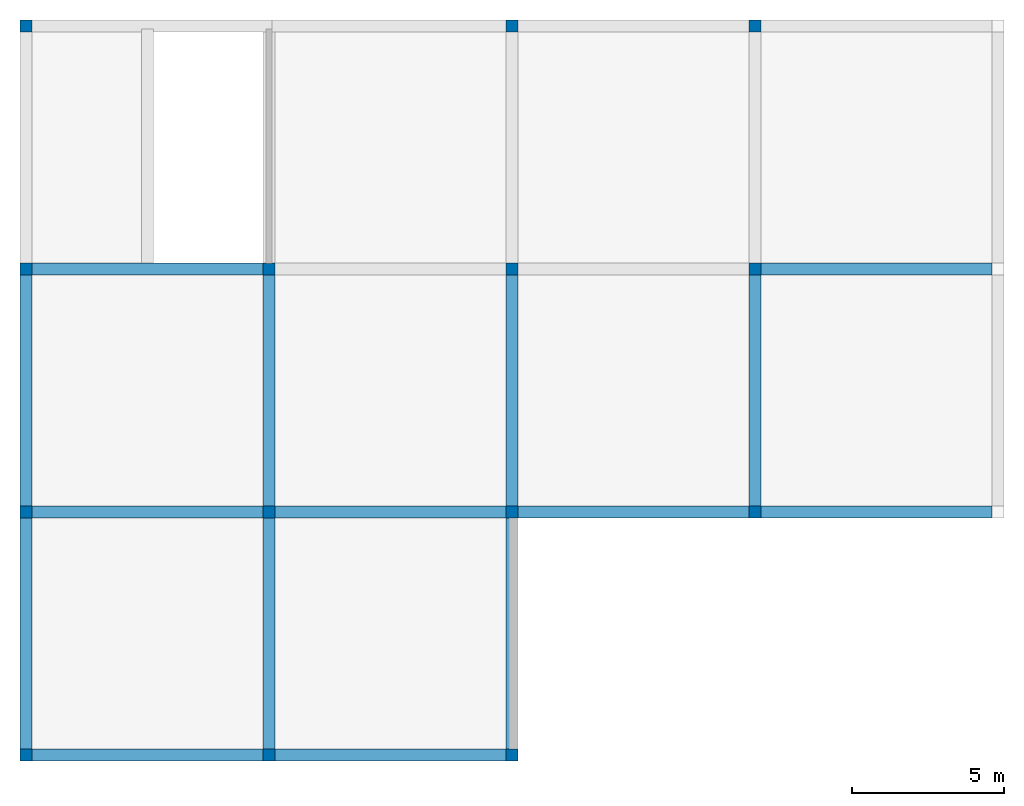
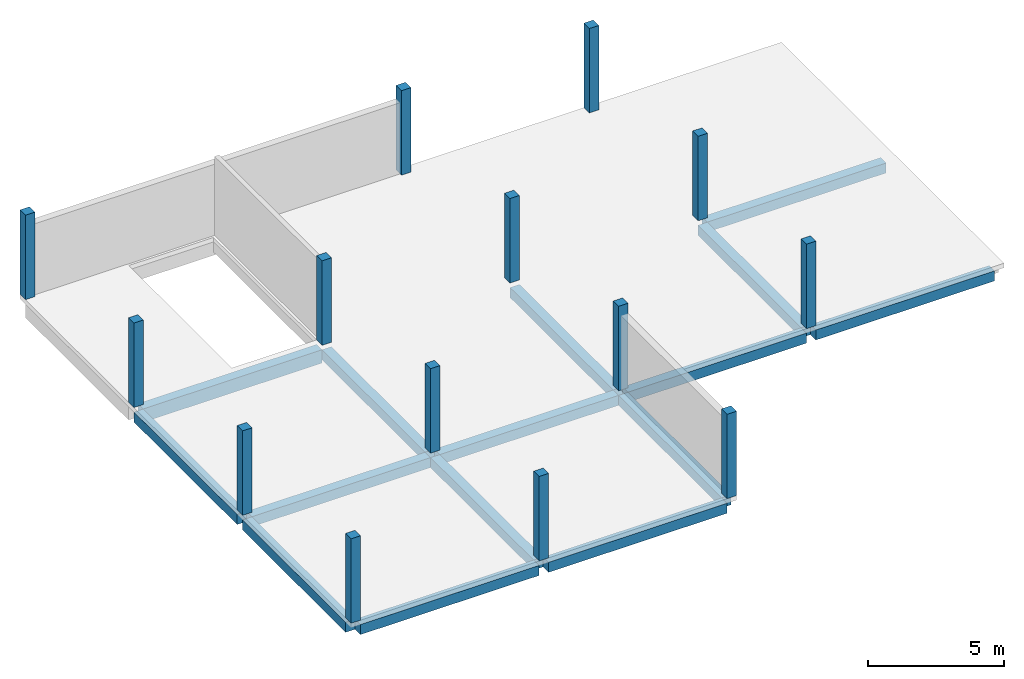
# One storey, part 1 of 3: 15 beams, 14 columns.
"""IFC4X3_ADD2 building model written with IfcOpenShell, lengths in millimetres."""

from ifc_helpers import new_model, entity, si_unit, converted_unit, derived_unit, direction, frame, frame_2d, origin, origin_2d_with_axis, place, context, subcontext, project, spatial, rectangle, extrude, faceted_brep, source, transform, mapped, material, material_profile, profile_set, type_object, type_shapes, element, save


model = new_model("IFC4X3_ADD2")

# Units and contexts
model_context = context("Model", 3, precision=0.01, world=origin(), true_north=direction((6.123233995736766e-17, 1.0)))
plan_context = context("Plan", 3, precision=0.01, world=origin(), true_north=direction((6.123233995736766e-17, 1.0)))
body_context = subcontext(model_context, "Body", "Model", "MODEL_VIEW")
ifc_project = project(units=[si_unit("LENGTHUNIT", "METRE", prefix="MILLI"), converted_unit("PLANEANGLEUNIT", "DEGREE", entity("IfcPlaneAngleMeasure", 0.017453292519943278), si_unit("PLANEANGLEUNIT", "RADIAN"), dimensions=[0, 0, 0, 0, 0, 0, 0]), si_unit("AREAUNIT", "SQUARE_METRE"), si_unit("VOLUMEUNIT", "CUBIC_METRE"), derived_unit("THERMALTRANSMITTANCEUNIT", [(si_unit("MASSUNIT", "GRAM", prefix="KILO"), 1), (si_unit("THERMODYNAMICTEMPERATUREUNIT", "KELVIN"), -1), (si_unit("TIMEUNIT", "SECOND"), -3)]), derived_unit("USERDEFINED", [(si_unit("MASSUNIT", "GRAM", prefix="KILO"), 1), (si_unit("THERMODYNAMICTEMPERATUREUNIT", "KELVIN"), -1), (si_unit("TIMEUNIT", "SECOND"), -2)]), derived_unit("THERMALRESISTANCEUNIT", [(si_unit("MASSUNIT", "GRAM", prefix="KILO"), -1), (si_unit("TIMEUNIT", "SECOND"), 3), (si_unit("THERMODYNAMICTEMPERATUREUNIT", "KELVIN"), 1)]), si_unit("PRESSUREUNIT", "PASCAL"), derived_unit("MASSDENSITYUNIT", [(si_unit("MASSUNIT", "GRAM", prefix="KILO"), 1), (si_unit("LENGTHUNIT", "METRE"), -3)]), derived_unit("MODULUSOFELASTICITYUNIT", [(si_unit("MASSUNIT", "GRAM", prefix="KILO"), 1), (si_unit("TIMEUNIT", "SECOND"), -2), (si_unit("LENGTHUNIT", "METRE"), -1)]), derived_unit("THERMALEXPANSIONCOEFFICIENTUNIT", [(si_unit("THERMODYNAMICTEMPERATUREUNIT", "KELVIN"), -1)]), derived_unit("VAPORPERMEABILITYUNIT", [(si_unit("LENGTHUNIT", "METRE"), -1), (si_unit("TIMEUNIT", "SECOND"), 1)]), derived_unit("USERDEFINED", [(si_unit("MASSUNIT", "GRAM", prefix="KILO"), 1), (si_unit("TIMEUNIT", "SECOND"), -3), (si_unit("LENGTHUNIT", "METRE"), 3), (si_unit("ELECTRICCURRENTUNIT", "AMPERE"), -2)]), derived_unit("SPECIFICHEATCAPACITYUNIT", [(si_unit("THERMODYNAMICTEMPERATUREUNIT", "KELVIN"), -1), (si_unit("TIMEUNIT", "SECOND"), -2), (si_unit("LENGTHUNIT", "METRE"), 2)]), derived_unit("THERMALCONDUCTANCEUNIT", [(si_unit("MASSUNIT", "GRAM", prefix="KILO"), 1), (si_unit("THERMODYNAMICTEMPERATUREUNIT", "KELVIN"), -1), (si_unit("TIMEUNIT", "SECOND"), -3), (si_unit("LENGTHUNIT", "METRE"), 1)])], contexts=[model_context, plan_context])

# Site, building, storey
site_placement = place(None, origin())
site = spatial("IfcSite", under=ifc_project, at=site_placement, Name="Default", CompositionType="ELEMENT")
building_placement = place(site_placement, origin())
building = spatial("IfcBuilding", under=site, at=building_placement, Name="Building Name", CompositionType="ELEMENT")
storey_placement = place(building_placement, frame((0.0, 0.0, 12000.0)))
storey = spatial("IfcBuildingStorey", under=building, at=storey_placement, Name="L4", CompositionType="ELEMENT", Elevation=12000.00000000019)

# Columns
ifc_material = material(Name="Concrete - Cast-in-Place Concrete", Category="Concrete")
ifc_material_profile_1 = material_profile(ifc_material, rectangle(XDim=400.0, YDim=400.0, at=origin_2d_with_axis()), Name="400 x 400mm")
ifc_profile_set_1 = profile_set([ifc_material_profile_1], Name="400 x 400mm")
column_type_1 = type_object("IfcColumnType", Name="Concrete Square:400 x 400mm", PredefinedType="COLUMN", material=ifc_profile_set_1)
shared_shape_1 = source(origin(), body_context, "Body", "SweptSolid", [
    extrude(rectangle(XDim=400.0, YDim=400.0, at=origin_2d_with_axis()), frame((11032.048763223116, 12096.696870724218, 12000.0), z_axis=(0.0, 0.0, 1.0), x_axis=(-1.0, 0.0, 0.0)), (0.0, 0.0, 1.0), 3800.0000000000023),
])
type_shapes(column_type_1, [shared_shape_1])
column_1_placement = place(storey_placement, frame((0.0, 0.0, -12000.0)))
element("IfcColumn", 1, at=column_1_placement, inside=storey, type_object=column_type_1, Name="Concrete Square:400 x 400mm", ObjectType="Concrete Square:400 x 400mm", PredefinedType="COLUMN", context=body_context, shape_type="MappedRepresentation", body=[
    mapped(shared_shape_1, transform((0.0, 0.0, 0.0), scale=1.0)),
])
column_type_2 = type_object("IfcColumnType", Name="Concrete Square:400 x 400mm", PredefinedType="COLUMN", material=ifc_profile_set_1)
shared_shape_2 = source(origin(), body_context, "Body", "SweptSolid", [
    extrude(rectangle(XDim=400.0, YDim=400.0, at=origin_2d_with_axis()), frame((-12967.951236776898, 4096.696870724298, 12000.0), z_axis=(0.0, 0.0, 1.0), x_axis=(-1.0, 0.0, 0.0)), (0.0, 0.0, 1.0), 3800.0000000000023),
])
type_shapes(column_type_2, [shared_shape_2])
column_2_placement = place(storey_placement, frame((0.0, 0.0, -12000.0)))
element("IfcColumn", 2, at=column_2_placement, inside=storey, type_object=column_type_2, Name="Concrete Square:400 x 400mm", ObjectType="Concrete Square:400 x 400mm", PredefinedType="COLUMN", context=body_context, shape_type="MappedRepresentation", body=[
    mapped(shared_shape_2, transform((0.0, 0.0, 0.0), scale=1.0)),
])
column_type_3 = type_object("IfcColumnType", Name="Concrete Square:400 x 400mm", PredefinedType="COLUMN", material=ifc_profile_set_1)
shared_shape_3 = source(origin(), body_context, "Body", "SweptSolid", [
    extrude(rectangle(XDim=400.0, YDim=400.0, at=origin_2d_with_axis()), frame((3032.0487632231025, 4096.696870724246, 12000.0), z_axis=(0.0, 0.0, 1.0), x_axis=(-1.0, 0.0, 0.0)), (0.0, 0.0, 1.0), 3800.0000000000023),
])
type_shapes(column_type_3, [shared_shape_3])
column_3_placement = place(storey_placement, frame((0.0, 0.0, -12000.0)))
element("IfcColumn", 3, at=column_3_placement, inside=storey, type_object=column_type_3, Name="Concrete Square:400 x 400mm", ObjectType="Concrete Square:400 x 400mm", PredefinedType="COLUMN", context=body_context, shape_type="MappedRepresentation", body=[
    mapped(shared_shape_3, transform((0.0, 0.0, 0.0), scale=1.0)),
])
column_type_4 = type_object("IfcColumnType", Name="Concrete Square:400 x 400mm", PredefinedType="COLUMN", material=ifc_profile_set_1)
shared_shape_4 = source(origin(), body_context, "Body", "SweptSolid", [
    extrude(rectangle(XDim=400.0, YDim=400.0, at=origin_2d_with_axis()), frame((11032.048763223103, 4096.6968707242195, 12000.0), z_axis=(0.0, 0.0, 1.0), x_axis=(-1.0, 0.0, 0.0)), (0.0, 0.0, 1.0), 3800.0000000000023),
])
type_shapes(column_type_4, [shared_shape_4])
column_4_placement = place(storey_placement, frame((0.0, 0.0, -12000.0)))
element("IfcColumn", 4, at=column_4_placement, inside=storey, type_object=column_type_4, Name="Concrete Square:400 x 400mm", ObjectType="Concrete Square:400 x 400mm", PredefinedType="COLUMN", context=body_context, shape_type="MappedRepresentation", body=[
    mapped(shared_shape_4, transform((0.0, 0.0, 0.0), scale=1.0)),
])
column_type_5 = type_object("IfcColumnType", Name="Concrete Square:400 x 400mm", PredefinedType="COLUMN", material=ifc_profile_set_1)
shared_shape_5 = source(origin(), body_context, "Body", "SweptSolid", [
    extrude(rectangle(XDim=400.0, YDim=400.0, at=origin_2d_with_axis()), frame((-12967.951236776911, -3903.3031292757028, 12000.0), z_axis=(0.0, 0.0, 1.0), x_axis=(-1.0, 0.0, 0.0)), (0.0, 0.0, 1.0), 3800.0000000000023),
])
type_shapes(column_type_5, [shared_shape_5])
column_5_placement = place(storey_placement, frame((0.0, 0.0, -12000.0)))
element("IfcColumn", 5, at=column_5_placement, inside=storey, type_object=column_type_5, Name="Concrete Square:400 x 400mm", ObjectType="Concrete Square:400 x 400mm", PredefinedType="COLUMN", context=body_context, shape_type="MappedRepresentation", body=[
    mapped(shared_shape_5, transform((0.0, 0.0, 0.0), scale=1.0)),
])
column_type_6 = type_object("IfcColumnType", Name="Concrete Square:400 x 400mm", PredefinedType="COLUMN", material=ifc_profile_set_1)
shared_shape_6 = source(origin(), body_context, "Body", "SweptSolid", [
    extrude(rectangle(XDim=400.0, YDim=400.0, at=origin_2d_with_axis()), frame((-4967.951236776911, -3903.3031292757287, 12000.0), z_axis=(0.0, 0.0, 1.0), x_axis=(-1.0, 0.0, 0.0)), (0.0, 0.0, 1.0), 3800.0000000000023),
])
type_shapes(column_type_6, [shared_shape_6])
column_6_placement = place(storey_placement, frame((0.0, 0.0, -12000.0)))
element("IfcColumn", 6, at=column_6_placement, inside=storey, type_object=column_type_6, Name="Concrete Square:400 x 400mm", ObjectType="Concrete Square:400 x 400mm", PredefinedType="COLUMN", context=body_context, shape_type="MappedRepresentation", body=[
    mapped(shared_shape_6, transform((0.0, 0.0, 0.0), scale=1.0)),
])
column_type_7 = type_object("IfcColumnType", Name="Concrete Square:400 x 400mm", PredefinedType="COLUMN", material=ifc_profile_set_1)
shared_shape_7 = source(origin(), body_context, "Body", "SweptSolid", [
    extrude(rectangle(XDim=400.0, YDim=400.0, at=origin_2d_with_axis()), frame((11032.04876322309, -3903.303129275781, 12000.0), z_axis=(0.0, 0.0, 1.0), x_axis=(-1.0, 0.0, 0.0)), (0.0, 0.0, 1.0), 3800.0000000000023),
])
type_shapes(column_type_7, [shared_shape_7])
column_7_placement = place(storey_placement, frame((0.0, 0.0, -12000.0)))
element("IfcColumn", 7, at=column_7_placement, inside=storey, type_object=column_type_7, Name="Concrete Square:400 x 400mm", ObjectType="Concrete Square:400 x 400mm", PredefinedType="COLUMN", context=body_context, shape_type="MappedRepresentation", body=[
    mapped(shared_shape_7, transform((0.0, 0.0, 0.0), scale=1.0)),
])
column_type_8 = type_object("IfcColumnType", Name="Concrete Square:400 x 400mm", PredefinedType="COLUMN", material=ifc_profile_set_1)
shared_shape_8 = source(origin(), body_context, "Body", "SweptSolid", [
    extrude(rectangle(XDim=400.0, YDim=400.0, at=origin_2d_with_axis()), frame((-12967.951236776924, -11903.303129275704, 12000.0), z_axis=(0.0, 0.0, 1.0), x_axis=(-1.0, 0.0, 0.0)), (0.0, 0.0, 1.0), 3800.0000000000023),
])
type_shapes(column_type_8, [shared_shape_8])
column_8_placement = place(storey_placement, frame((0.0, 0.0, -12000.0)))
element("IfcColumn", 8, at=column_8_placement, inside=storey, type_object=column_type_8, Name="Concrete Square:400 x 400mm", ObjectType="Concrete Square:400 x 400mm", PredefinedType="COLUMN", context=body_context, shape_type="MappedRepresentation", body=[
    mapped(shared_shape_8, transform((0.0, 0.0, 0.0), scale=1.0)),
])
column_type_9 = type_object("IfcColumnType", Name="Concrete Square:400 x 400mm", PredefinedType="COLUMN", material=ifc_profile_set_1)
shared_shape_9 = source(origin(), body_context, "Body", "SweptSolid", [
    extrude(rectangle(XDim=400.0, YDim=400.0, at=origin_2d_with_axis()), frame((-4967.951236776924, -11903.30312927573, 12000.0), z_axis=(0.0, 0.0, 1.0), x_axis=(-1.0, 0.0, 0.0)), (0.0, 0.0, 1.0), 3800.0000000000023),
])
type_shapes(column_type_9, [shared_shape_9])
column_9_placement = place(storey_placement, frame((0.0, 0.0, -12000.0)))
element("IfcColumn", 9, at=column_9_placement, inside=storey, type_object=column_type_9, Name="Concrete Square:400 x 400mm", ObjectType="Concrete Square:400 x 400mm", PredefinedType="COLUMN", context=body_context, shape_type="MappedRepresentation", body=[
    mapped(shared_shape_9, transform((0.0, 0.0, 0.0), scale=1.0)),
])
column_type_10 = type_object("IfcColumnType", Name="Concrete Square:400 x 400mm", PredefinedType="COLUMN", material=ifc_profile_set_1)
shared_shape_10 = source(origin(), body_context, "Body", "SweptSolid", [
    extrude(rectangle(XDim=400.0, YDim=400.0, at=frame_2d((-39.99999999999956, -19.999999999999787), x_axis=(1.0, 0.0))), frame((2992.048763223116, 12076.696870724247, 12000.0), z_axis=(0.0, 0.0, 1.0), x_axis=(-1.0, 0.0, 0.0)), (0.0, 0.0, 1.0), 3800.0000000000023),
])
type_shapes(column_type_10, [shared_shape_10])
column_10_placement = place(storey_placement, frame((0.0, 0.0, -12000.0)))
element("IfcColumn", 10, at=column_10_placement, inside=storey, type_object=column_type_10, Name="Concrete Square:400 x 400mm", ObjectType="Concrete Square:400 x 400mm", PredefinedType="COLUMN", context=body_context, shape_type="MappedRepresentation", body=[
    mapped(shared_shape_10, transform((0.0, 0.0, 0.0), scale=1.0)),
])
column_type_11 = type_object("IfcColumnType", Name="Concrete Square:400 x 400mm", PredefinedType="COLUMN", material=ifc_profile_set_1)
shared_shape_11 = source(origin(), body_context, "Body", "SweptSolid", [
    extrude(rectangle(XDim=400.0, YDim=400.0, at=frame_2d((39.99999999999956, -19.999999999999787), x_axis=(1.0, 0.0))), frame((-12927.951236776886, 12076.696870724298, 12000.0), z_axis=(0.0, 0.0, 1.0), x_axis=(-1.0, 0.0, 0.0)), (0.0, 0.0, 1.0), 3800.0000000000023),
])
type_shapes(column_type_11, [shared_shape_11])
column_11_placement = place(storey_placement, frame((0.0, 0.0, -12000.0)))
element("IfcColumn", 11, at=column_11_placement, inside=storey, type_object=column_type_11, Name="Concrete Square:400 x 400mm", ObjectType="Concrete Square:400 x 400mm", PredefinedType="COLUMN", context=body_context, shape_type="MappedRepresentation", body=[
    mapped(shared_shape_11, transform((0.0, 0.0, 0.0), scale=1.0)),
])
column_type_12 = type_object("IfcColumnType", Name="Concrete Square:400 x 400mm", PredefinedType="COLUMN", material=ifc_profile_set_1)
shared_shape_12 = source(origin(), body_context, "Body", "SweptSolid", [
    extrude(rectangle(XDim=400.0, YDim=400.0, at=frame_2d((-19.999999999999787, 39.9999999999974), x_axis=(1.0, 0.0))), frame((3012.0487632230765, -11863.303129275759, 12000.0), z_axis=(0.0, 0.0, 1.0), x_axis=(-1.0, 0.0, 0.0)), (0.0, 0.0, 1.0), 3800.0000000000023),
])
type_shapes(column_type_12, [shared_shape_12])
column_12_placement = place(storey_placement, frame((0.0, 0.0, -12000.0)))
element("IfcColumn", 12, at=column_12_placement, inside=storey, type_object=column_type_12, Name="Concrete Square:400 x 400mm", ObjectType="Concrete Square:400 x 400mm", PredefinedType="COLUMN", context=body_context, shape_type="MappedRepresentation", body=[
    mapped(shared_shape_12, transform((0.0, 0.0, 0.0), scale=1.0)),
])
column_type_13 = type_object("IfcColumnType", Name="Concrete Square:400 x 400mm", PredefinedType="COLUMN", material=ifc_profile_set_1)
shared_shape_13 = source(origin(), body_context, "Body", "SweptSolid", [
    extrude(rectangle(XDim=400.0, YDim=400.0, at=frame_2d((-20.000000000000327, -40.00000000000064), x_axis=(1.0, 0.0))), frame((3012.0487632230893, -3943.3031292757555, 12000.0), z_axis=(0.0, 0.0, 1.0), x_axis=(-1.0, 0.0, 0.0)), (0.0, 0.0, 1.0), 3800.0000000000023),
])
type_shapes(column_type_13, [shared_shape_13])
column_13_placement = place(storey_placement, frame((0.0, 0.0, -12000.0)))
element("IfcColumn", 13, at=column_13_placement, inside=storey, type_object=column_type_13, Name="Concrete Square:400 x 400mm", ObjectType="Concrete Square:400 x 400mm", PredefinedType="COLUMN", context=body_context, shape_type="MappedRepresentation", body=[
    mapped(shared_shape_13, transform((0.0, 0.0, 0.0), scale=1.0)),
])
column_type_14 = type_object("IfcColumnType", Name="Concrete Square:400 x 400mm", PredefinedType="COLUMN", material=ifc_profile_set_1)
shared_shape_14 = source(origin(), body_context, "Body", "Brep", [
    faceted_brep([(-4767.951236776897, 4296.696870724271, 12000.0), (-4767.951236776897, 3896.696870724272, 12000.0), (-5167.951236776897, 3896.696870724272, 12000.0), (-5167.951236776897, 4296.696870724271, 12000.0), (-5067.951236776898, 4296.696870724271, 12000.0), (-5067.951236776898, 4286.6968707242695, 12000.0), (-4867.9512367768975, 4286.6968707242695, 12000.0), (-4867.951236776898, 4296.696870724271, 12000.0), (-4767.951236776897, 4296.696870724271, 15200.0), (-4767.951236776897, 4296.696870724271, 15350.0), (-4767.951236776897, 4296.696870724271, 15800.0), (-4767.951236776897, 3896.696870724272, 15800.0), (-4767.951236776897, 3896.696870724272, 15350.0), (-4767.951236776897, 3896.696870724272, 15200.0), (-5167.951236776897, 3896.696870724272, 15800.0), (-5167.951236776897, 3896.696870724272, 15350.0), (-5167.951236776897, 3896.696870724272, 15200.0), (-5167.951236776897, 4296.696870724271, 15800.0), (-5167.951236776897, 4296.696870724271, 15350.0), (-5167.951236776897, 4296.696870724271, 15200.0), (-4867.9512367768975, 4296.696870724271, 15350.0), (-4867.9512367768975, 4296.696870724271, 15550.0), (-5067.951236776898, 4296.696870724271, 15550.0), (-5067.951236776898, 4296.696870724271, 15350.0), (-5067.951236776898, 4286.6968707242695, 15550.0), (-4867.9512367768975, 4286.6968707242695, 15550.0)], [[[0, 1, 2, 3, 4, 5, 6, 7]], [[1, 0, 8, 9, 10, 11, 12, 13]], [[2, 1, 13, 12, 11, 14, 15, 16]], [[3, 2, 16, 15, 14, 17, 18, 19]], [[4, 3, 19, 18, 17, 10, 9, 8, 0, 7, 20, 21, 22, 23]], [[24, 5, 4, 23, 22]], [[6, 25, 21, 20, 7]], [[5, 24, 25, 6]], [[25, 24, 22, 21]], [[11, 10, 17, 14]]]),
])
type_shapes(column_type_14, [shared_shape_14])
column_14_placement = place(storey_placement, frame((0.0, 0.0, -12000.0)))
element("IfcColumn", 14, at=column_14_placement, inside=storey, type_object=column_type_14, Name="Concrete Square:400 x 400mm", ObjectType="Concrete Square:400 x 400mm", PredefinedType="COLUMN", context=body_context, shape_type="MappedRepresentation", body=[
    mapped(shared_shape_14, transform((0.0, 0.0, 0.0), scale=1.0)),
])

# Beams
ifc_material_profile_2 = material_profile(ifc_material, rectangle(XDim=450.0, YDim=400.00000000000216, at=frame_2d((-1.0942358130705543e-12, 2.7000623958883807e-13), x_axis=(0.0, 1.0))), Name="400 x 450mm")
ifc_profile_set_2 = profile_set([ifc_material_profile_2], Name="400 x 450mm")
beam_type_1 = type_object("IfcBeamType", Name="Concrete - Rectangular Beam:400 x 450mm", PredefinedType="BEAM", material=ifc_profile_set_2)
shared_shape_15 = source(origin(), body_context, "Body", "SweptSolid", [
    extrude(rectangle(XDim=449.9999999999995, YDim=400.00000000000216, at=frame_2d((-1.0942358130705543e-12, -1.0800249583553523e-12), x_axis=(0.0, 1.0))), frame((-12967.951236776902, 3896.696870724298, 11575.0), z_axis=(0.0, -1.0, 0.0), x_axis=(-1.0, 0.0, 0.0)), (0.0, 0.0, 1.0), 7600.000000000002),
])
type_shapes(beam_type_1, [shared_shape_15])
beam_1_placement = place(storey_placement, frame((0.0, 0.0, -12000.0)))
element("IfcBeam", 15, at=beam_1_placement, inside=storey, type_object=beam_type_1, Name="Concrete - Rectangular Beam:400 x 450mm", ObjectType="Concrete - Rectangular Beam:400 x 450mm", PredefinedType="BEAM", context=body_context, shape_type="MappedRepresentation", body=[
    mapped(shared_shape_15, transform((0.0, 0.0, 0.0), scale=1.0)),
])
beam_type_2 = type_object("IfcBeamType", Name="Concrete - Rectangular Beam:400 x 450mm", PredefinedType="BEAM", material=ifc_profile_set_2)
shared_shape_16 = source(origin(), body_context, "Body", "SweptSolid", [
    extrude(rectangle(XDim=449.9999999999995, YDim=400.00000000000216, at=frame_2d((-1.0942358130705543e-12, -1.0800249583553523e-12), x_axis=(0.0, 1.0))), frame((-12967.951236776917, -4103.303129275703, 11575.0), z_axis=(0.0, -1.0, 0.0), x_axis=(-1.0, 0.0, 0.0)), (0.0, 0.0, 1.0), 7600.000000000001),
])
type_shapes(beam_type_2, [shared_shape_16])
beam_2_placement = place(storey_placement, frame((0.0, 0.0, -12000.0)))
element("IfcBeam", 16, at=beam_2_placement, inside=storey, type_object=beam_type_2, Name="Concrete - Rectangular Beam:400 x 450mm", ObjectType="Concrete - Rectangular Beam:400 x 450mm", PredefinedType="BEAM", context=body_context, shape_type="MappedRepresentation", body=[
    mapped(shared_shape_16, transform((0.0, 0.0, 0.0), scale=1.0)),
])
beam_type_3 = type_object("IfcBeamType", Name="Concrete - Rectangular Beam:400 x 450mm", PredefinedType="BEAM", material=ifc_profile_set_2)
shared_shape_17 = source(origin(), body_context, "Body", "SweptSolid", [
    extrude(rectangle(XDim=449.9999999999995, YDim=400.0000000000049, at=frame_2d((2.7000623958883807e-13, -1.0800249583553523e-12), x_axis=(0.0, 1.0))), frame((-4967.951236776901, 3896.6968707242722, 11575.0), z_axis=(0.0, -1.0, 0.0), x_axis=(-1.0, 0.0, 0.0)), (0.0, 0.0, 1.0), 7600.000000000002),
])
type_shapes(beam_type_3, [shared_shape_17])
beam_3_placement = place(storey_placement, frame((0.0, 0.0, -12000.0)))
element("IfcBeam", 17, at=beam_3_placement, inside=storey, type_object=beam_type_3, Name="Concrete - Rectangular Beam:400 x 450mm", ObjectType="Concrete - Rectangular Beam:400 x 450mm", PredefinedType="BEAM", context=body_context, shape_type="MappedRepresentation", body=[
    mapped(shared_shape_17, transform((0.0, 0.0, 0.0), scale=1.0)),
])
beam_type_4 = type_object("IfcBeamType", Name="Concrete - Rectangular Beam:400 x 450mm", PredefinedType="BEAM", material=ifc_profile_set_2)
shared_shape_18 = source(origin(), body_context, "Body", "SweptSolid", [
    extrude(rectangle(XDim=449.9999999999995, YDim=400.0000000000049, at=frame_2d((2.7000623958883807e-13, -1.0800249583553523e-12), x_axis=(0.0, 1.0))), frame((-4967.951236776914, -4103.303129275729, 11575.0), z_axis=(0.0, -1.0, 0.0), x_axis=(-1.0, 0.0, 0.0)), (0.0, 0.0, 1.0), 7600.000000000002),
])
type_shapes(beam_type_4, [shared_shape_18])
beam_4_placement = place(storey_placement, frame((0.0, 0.0, -12000.0)))
element("IfcBeam", 18, at=beam_4_placement, inside=storey, type_object=beam_type_4, Name="Concrete - Rectangular Beam:400 x 450mm", ObjectType="Concrete - Rectangular Beam:400 x 450mm", PredefinedType="BEAM", context=body_context, shape_type="MappedRepresentation", body=[
    mapped(shared_shape_18, transform((0.0, 0.0, 0.0), scale=1.0)),
])
beam_type_5 = type_object("IfcBeamType", Name="Concrete - Rectangular Beam:400 x 450mm", PredefinedType="BEAM", material=ifc_profile_set_2)
shared_shape_19 = source(origin(), body_context, "Body", "SweptSolid", [
    extrude(rectangle(XDim=449.9999999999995, YDim=400.00000000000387, at=frame_2d((-5.400124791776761e-13, -1.0800249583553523e-12), x_axis=(0.0, 1.0))), frame((3032.0487632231, 3896.6968707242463, 11575.0), z_axis=(0.0, -1.0, 0.0), x_axis=(-1.0, 0.0, 0.0)), (0.0, 0.0, 1.0), 7600.000000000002),
])
type_shapes(beam_type_5, [shared_shape_19])
beam_5_placement = place(storey_placement, frame((0.0, 0.0, -12000.0)))
element("IfcBeam", 19, at=beam_5_placement, inside=storey, type_object=beam_type_5, Name="Concrete - Rectangular Beam:400 x 450mm", ObjectType="Concrete - Rectangular Beam:400 x 450mm", PredefinedType="BEAM", context=body_context, shape_type="MappedRepresentation", body=[
    mapped(shared_shape_19, transform((0.0, 0.0, 0.0), scale=1.0)),
])
beam_type_6 = type_object("IfcBeamType", Name="Concrete - Rectangular Beam:400 x 450mm", PredefinedType="BEAM", material=ifc_profile_set_2)
shared_shape_20 = source(origin(), body_context, "Body", "SweptSolid", [
    extrude(rectangle(XDim=449.9999999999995, YDim=400.00000000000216, at=frame_2d((-1.0942358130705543e-12, -1.0800249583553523e-12), x_axis=(0.0, 1.0))), frame((11032.048763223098, 3896.6968707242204, 11575.0), z_axis=(0.0, -1.0, 0.0), x_axis=(-1.0, 0.0, 0.0)), (0.0, 0.0, 1.0), 7600.000000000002),
])
type_shapes(beam_type_6, [shared_shape_20])
beam_6_placement = place(storey_placement, frame((0.0, 0.0, -12000.0)))
element("IfcBeam", 20, at=beam_6_placement, inside=storey, type_object=beam_type_6, Name="Concrete - Rectangular Beam:400 x 450mm", ObjectType="Concrete - Rectangular Beam:400 x 450mm", PredefinedType="BEAM", context=body_context, shape_type="MappedRepresentation", body=[
    mapped(shared_shape_20, transform((0.0, 0.0, 0.0), scale=1.0)),
])
beam_type_7 = type_object("IfcBeamType", Name="Concrete - Rectangular Beam:400 x 450mm", PredefinedType="BEAM", material=ifc_profile_set_2)
shared_shape_21 = source(origin(), body_context, "Body", "SweptSolid", [
    extrude(rectangle(XDim=449.9999999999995, YDim=400.0000000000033, at=frame_2d((-1.0800249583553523e-12, 0.0), x_axis=(1.0, 0.0))), frame((11232.048763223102, 4096.696870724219, 11575.0), z_axis=(1.0, 0.0, 0.0), x_axis=(0.0, 0.0, -1.0)), (0.0, 0.0, 1.0), 7600.000000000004),
])
type_shapes(beam_type_7, [shared_shape_21])
beam_7_placement = place(storey_placement, frame((0.0, 0.0, -12000.0)))
element("IfcBeam", 21, at=beam_7_placement, inside=storey, type_object=beam_type_7, Name="Concrete - Rectangular Beam:400 x 450mm", ObjectType="Concrete - Rectangular Beam:400 x 450mm", PredefinedType="BEAM", context=body_context, shape_type="MappedRepresentation", body=[
    mapped(shared_shape_21, transform((0.0, 0.0, 0.0), scale=1.0)),
])
beam_type_8 = type_object("IfcBeamType", Name="Concrete - Rectangular Beam:400 x 450mm", PredefinedType="BEAM", material=ifc_profile_set_2)
shared_shape_22 = source(origin(), body_context, "Body", "SweptSolid", [
    extrude(rectangle(XDim=449.9999999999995, YDim=400.0000000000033, at=frame_2d((-1.0800249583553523e-12, 0.0), x_axis=(1.0, 0.0))), frame((3232.048763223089, -3903.303129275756, 11575.0), z_axis=(1.0, 0.0, 0.0), x_axis=(0.0, 0.0, -1.0)), (0.0, 0.0, 1.0), 7600.000000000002),
])
type_shapes(beam_type_8, [shared_shape_22])
beam_8_placement = place(storey_placement, frame((0.0, 0.0, -12000.0)))
element("IfcBeam", 22, at=beam_8_placement, inside=storey, type_object=beam_type_8, Name="Concrete - Rectangular Beam:400 x 450mm", ObjectType="Concrete - Rectangular Beam:400 x 450mm", PredefinedType="BEAM", context=body_context, shape_type="MappedRepresentation", body=[
    mapped(shared_shape_22, transform((0.0, 0.0, 0.0), scale=1.0)),
])
beam_type_9 = type_object("IfcBeamType", Name="Concrete - Rectangular Beam:400 x 450mm", PredefinedType="BEAM", material=ifc_profile_set_2)
shared_shape_23 = source(origin(), body_context, "Body", "SweptSolid", [
    extrude(rectangle(XDim=449.9999999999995, YDim=400.0000000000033, at=frame_2d((-1.0800249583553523e-12, 0.0), x_axis=(1.0, 0.0))), frame((11232.048763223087, -3903.303129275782, 11575.0), z_axis=(1.0, 0.0, 0.0), x_axis=(0.0, 0.0, -1.0)), (0.0, 0.0, 1.0), 7600.000000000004),
])
type_shapes(beam_type_9, [shared_shape_23])
beam_9_placement = place(storey_placement, frame((0.0, 0.0, -12000.0)))
element("IfcBeam", 23, at=beam_9_placement, inside=storey, type_object=beam_type_9, Name="Concrete - Rectangular Beam:400 x 450mm", ObjectType="Concrete - Rectangular Beam:400 x 450mm", PredefinedType="BEAM", context=body_context, shape_type="MappedRepresentation", body=[
    mapped(shared_shape_23, transform((0.0, 0.0, 0.0), scale=1.0)),
])
beam_type_10 = type_object("IfcBeamType", Name="Concrete - Rectangular Beam:400 x 450mm", PredefinedType="BEAM", material=ifc_profile_set_2)
shared_shape_24 = source(origin(), body_context, "Body", "SweptSolid", [
    extrude(rectangle(XDim=449.9999999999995, YDim=400.0000000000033, at=frame_2d((-1.0800249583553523e-12, 0.0), x_axis=(1.0, 0.0))), frame((-12767.951236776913, -3903.3031292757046, 11575.0), z_axis=(1.0, 0.0, 0.0), x_axis=(0.0, 0.0, -1.0)), (0.0, 0.0, 1.0), 7600.000000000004),
])
type_shapes(beam_type_10, [shared_shape_24])
beam_10_placement = place(storey_placement, frame((0.0, 0.0, -12000.0)))
element("IfcBeam", 24, at=beam_10_placement, inside=storey, type_object=beam_type_10, Name="Concrete - Rectangular Beam:400 x 450mm", ObjectType="Concrete - Rectangular Beam:400 x 450mm", PredefinedType="BEAM", context=body_context, shape_type="MappedRepresentation", body=[
    mapped(shared_shape_24, transform((0.0, 0.0, 0.0), scale=1.0)),
])
beam_type_11 = type_object("IfcBeamType", Name="Concrete - Rectangular Beam:400 x 450mm", PredefinedType="BEAM", material=ifc_profile_set_2)
shared_shape_25 = source(origin(), body_context, "Body", "SweptSolid", [
    extrude(rectangle(XDim=449.9999999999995, YDim=400.00000000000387, at=frame_2d((-1.0800249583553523e-12, -2.7000623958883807e-13), x_axis=(1.0, 0.0))), frame((-4767.951236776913, -3903.3031292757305, 11575.0), z_axis=(1.0, 0.0, 0.0), x_axis=(0.0, 0.0, -1.0)), (0.0, 0.0, 1.0), 7600.000000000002),
])
type_shapes(beam_type_11, [shared_shape_25])
beam_11_placement = place(storey_placement, frame((0.0, 0.0, -12000.0)))
element("IfcBeam", 25, at=beam_11_placement, inside=storey, type_object=beam_type_11, Name="Concrete - Rectangular Beam:400 x 450mm", ObjectType="Concrete - Rectangular Beam:400 x 450mm", PredefinedType="BEAM", context=body_context, shape_type="MappedRepresentation", body=[
    mapped(shared_shape_25, transform((0.0, 0.0, 0.0), scale=1.0)),
])
ifc_material_profile_3 = material_profile(ifc_material, rectangle(XDim=600.0, YDim=400.0000000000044, at=frame_2d((-1.0942358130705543e-12, 2.842170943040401e-14), x_axis=(0.0, 1.0))), Name="400 x 600mm")
ifc_profile_set_3 = profile_set([ifc_material_profile_3], Name="400 x 600mm")
beam_type_12 = type_object("IfcBeamType", Name="Concrete - Rectangular Beam:400 x 600mm", PredefinedType="BEAM", material=ifc_profile_set_3)
shared_shape_26 = source(origin(), body_context, "Body", "SweptSolid", [
    extrude(rectangle(XDim=600.0, YDim=400.0000000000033, at=frame_2d((-1.0800249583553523e-12, 0.0), x_axis=(1.0, 0.0))), frame((-12767.9512367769, 4096.696870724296, 11500.0), z_axis=(1.0, 0.0, 0.0), x_axis=(0.0, 0.0, -1.0)), (0.0, 0.0, 1.0), 7600.000000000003),
])
type_shapes(beam_type_12, [shared_shape_26])
beam_12_placement = place(storey_placement, frame((0.0, 0.0, -12000.0)))
element("IfcBeam", 26, at=beam_12_placement, inside=storey, type_object=beam_type_12, Name="Concrete - Rectangular Beam:400 x 600mm", ObjectType="Concrete - Rectangular Beam:400 x 600mm", PredefinedType="BEAM", context=body_context, shape_type="MappedRepresentation", body=[
    mapped(shared_shape_26, transform((0.0, 0.0, 0.0), scale=1.0)),
])
beam_type_13 = type_object("IfcBeamType", Name="Concrete - Rectangular Beam:400 x 450mm", PredefinedType="BEAM", material=ifc_profile_set_2)
shared_shape_27 = source(origin(), body_context, "Body", "SweptSolid", [
    extrude(rectangle(XDim=449.9999999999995, YDim=400.0000000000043, at=frame_2d((-1.0800249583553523e-12, -1.0800249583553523e-12), x_axis=(1.0, 0.0))), frame((-12767.951236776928, -11903.303129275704, 11575.0), z_axis=(1.0, 0.0, 0.0), x_axis=(0.0, 0.0, -1.0)), (0.0, 0.0, 1.0), 7600.000000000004),
])
type_shapes(beam_type_13, [shared_shape_27])
beam_13_placement = place(storey_placement, frame((0.0, 0.0, -12000.0)))
element("IfcBeam", 27, at=beam_13_placement, inside=storey, type_object=beam_type_13, Name="Concrete - Rectangular Beam:400 x 450mm", ObjectType="Concrete - Rectangular Beam:400 x 450mm", PredefinedType="BEAM", context=body_context, shape_type="MappedRepresentation", body=[
    mapped(shared_shape_27, transform((0.0, 0.0, 0.0), scale=1.0)),
])
beam_type_14 = type_object("IfcBeamType", Name="Concrete - Rectangular Beam:400 x 450mm", PredefinedType="BEAM", material=ifc_profile_set_2)
shared_shape_28 = source(origin(), body_context, "Body", "SweptSolid", [
    extrude(rectangle(XDim=449.9999999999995, YDim=400.0000000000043, at=frame_2d((-1.0800249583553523e-12, -1.0800249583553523e-12), x_axis=(1.0, 0.0))), frame((-4767.951236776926, -11903.30312927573, 11575.0), z_axis=(1.0, 0.0, 0.0), x_axis=(0.0, 0.0, -1.0)), (0.0, 0.0, 1.0), 7600.000000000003),
])
type_shapes(beam_type_14, [shared_shape_28])
beam_14_placement = place(storey_placement, frame((0.0, 0.0, -12000.0)))
element("IfcBeam", 28, at=beam_14_placement, inside=storey, type_object=beam_type_14, Name="Concrete - Rectangular Beam:400 x 450mm", ObjectType="Concrete - Rectangular Beam:400 x 450mm", PredefinedType="BEAM", context=body_context, shape_type="MappedRepresentation", body=[
    mapped(shared_shape_28, transform((0.0, 0.0, 0.0), scale=1.0)),
])
beam_type_15 = type_object("IfcBeamType", Name="Concrete - Rectangular Beam:400 x 450mm", PredefinedType="BEAM", material=ifc_profile_set_2)
shared_shape_29 = source(origin(), body_context, "Body", "SweptSolid", [
    extrude(rectangle(XDim=449.9999999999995, YDim=400.00000000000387, at=frame_2d((-5.400124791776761e-13, -1.0800249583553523e-12), x_axis=(0.0, 1.0))), frame((3032.048763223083, -4103.303129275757, 11575.0), z_axis=(0.0, -1.0, 0.0), x_axis=(-1.0, 0.0, 0.0)), (0.0, 0.0, 1.0), 7599.999999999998),
])
type_shapes(beam_type_15, [shared_shape_29])
beam_15_placement = place(storey_placement, frame((0.0, 0.0, -12000.0)))
element("IfcBeam", 29, at=beam_15_placement, inside=storey, type_object=beam_type_15, Name="Concrete - Rectangular Beam:400 x 450mm", ObjectType="Concrete - Rectangular Beam:400 x 450mm", PredefinedType="BEAM", context=body_context, shape_type="MappedRepresentation", body=[
    mapped(shared_shape_29, transform((0.0, 0.0, 0.0), scale=1.0)),
])

save(model, "model.ifc")
